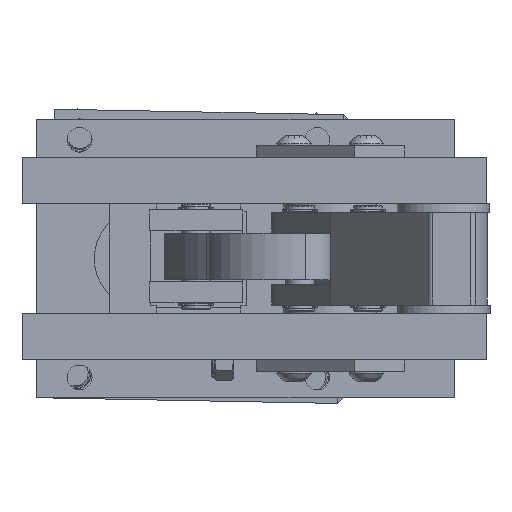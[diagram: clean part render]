
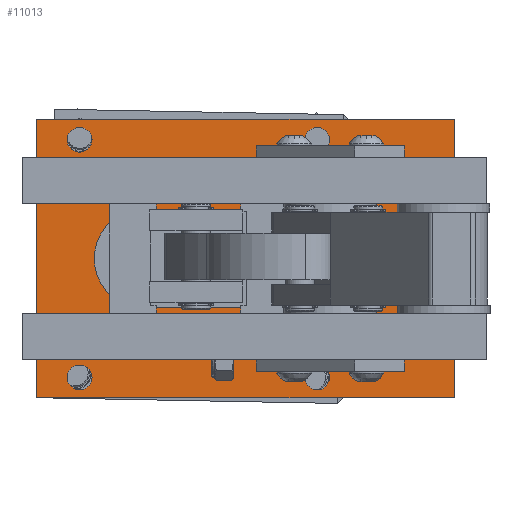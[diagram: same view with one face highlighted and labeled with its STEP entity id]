
A CAD part, left-side view. The second image highlights one B-rep face of the part: STEP entity #11013.
In plain terms, the highlighted planar face has unit normal (-1, 0, 0) as drawn and (0, 0, -1) by its records, which use the part's own axes.
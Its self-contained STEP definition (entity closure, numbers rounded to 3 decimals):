
#735=LINE($,#19102,#1239);
#739=LINE($,#19113,#1243);
#743=LINE($,#19122,#1247);
#747=LINE($,#19129,#1251);
#750=LINE($,#19135,#1254);
#752=LINE($,#19138,#1256);
#1239=VECTOR($,#14752,30.);
#1243=VECTOR($,#14764,30.);
#1247=VECTOR($,#14770,76.2);
#1251=VECTOR($,#14776,114.3);
#1254=VECTOR($,#14781,76.2);
#1256=VECTOR($,#14785,114.3);
#2402=FACE_BOUND($,#4086,.T.);
#2403=FACE_BOUND($,#4087,.T.);
#2404=FACE_BOUND($,#4088,.T.);
#2405=FACE_BOUND($,#4089,.T.);
#2406=FACE_BOUND($,#4090,.T.);
#2407=FACE_BOUND($,#4091,.T.);
#2408=FACE_BOUND($,#4092,.T.);
#2409=FACE_BOUND($,#4093,.T.);
#2410=FACE_BOUND($,#4094,.T.);
#2411=FACE_BOUND($,#4095,.T.);
#4086=EDGE_LOOP($,(#9000));
#4087=EDGE_LOOP($,(#9001));
#4088=EDGE_LOOP($,(#9002));
#4089=EDGE_LOOP($,(#9003));
#4090=EDGE_LOOP($,(#9004));
#4091=EDGE_LOOP($,(#9005));
#4092=EDGE_LOOP($,(#9006));
#4093=EDGE_LOOP($,(#9007));
#4094=EDGE_LOOP($,(#9008,#9009,#9010,#9011));
#4095=EDGE_LOOP($,(#9012,#9013,#9014,#9015));
#5017=CIRCLE($,#12197,3.391);
#5019=CIRCLE($,#12200,3.391);
#5021=CIRCLE($,#12203,3.391);
#5023=CIRCLE($,#12206,3.391);
#5028=CIRCLE($,#12214,4.25);
#5032=CIRCLE($,#12221,4.25);
#5036=CIRCLE($,#12228,4.25);
#5040=CIRCLE($,#12235,4.25);
#5041=CIRCLE($,#12237,13.487);
#5043=CIRCLE($,#12241,13.487);
#5820=VERTEX_POINT($,#19028);
#5822=VERTEX_POINT($,#19033);
#5824=VERTEX_POINT($,#19038);
#5826=VERTEX_POINT($,#19043);
#5831=VERTEX_POINT($,#19056);
#5835=VERTEX_POINT($,#19067);
#5839=VERTEX_POINT($,#19078);
#5843=VERTEX_POINT($,#19089);
#5844=VERTEX_POINT($,#19092);
#5845=VERTEX_POINT($,#19093);
#5848=VERTEX_POINT($,#19101);
#5850=VERTEX_POINT($,#19107);
#5854=VERTEX_POINT($,#19119);
#5855=VERTEX_POINT($,#19121);
#5857=VERTEX_POINT($,#19127);
#5859=VERTEX_POINT($,#19133);
#6973=EDGE_CURVE($,#5820,#5820,#5017,.T.);
#6975=EDGE_CURVE($,#5822,#5822,#5019,.T.);
#6977=EDGE_CURVE($,#5824,#5824,#5021,.T.);
#6979=EDGE_CURVE($,#5826,#5826,#5023,.T.);
#6984=EDGE_CURVE($,#5831,#5831,#5028,.T.);
#6988=EDGE_CURVE($,#5835,#5835,#5032,.T.);
#6992=EDGE_CURVE($,#5839,#5839,#5036,.T.);
#6996=EDGE_CURVE($,#5843,#5843,#5040,.T.);
#6997=EDGE_CURVE($,#5844,#5845,#5041,.T.);
#7001=EDGE_CURVE($,#5845,#5848,#735,.T.);
#7004=EDGE_CURVE($,#5848,#5850,#5043,.T.);
#7007=EDGE_CURVE($,#5850,#5844,#739,.T.);
#7011=EDGE_CURVE($,#5855,#5854,#743,.T.);
#7015=EDGE_CURVE($,#5854,#5857,#747,.T.);
#7018=EDGE_CURVE($,#5857,#5859,#750,.T.);
#7020=EDGE_CURVE($,#5859,#5855,#752,.T.);
#9000=ORIENTED_EDGE($,*,*,#6973,.T.);
#9001=ORIENTED_EDGE($,*,*,#6975,.T.);
#9002=ORIENTED_EDGE($,*,*,#6977,.T.);
#9003=ORIENTED_EDGE($,*,*,#6979,.T.);
#9004=ORIENTED_EDGE($,*,*,#6984,.T.);
#9005=ORIENTED_EDGE($,*,*,#6988,.T.);
#9006=ORIENTED_EDGE($,*,*,#6992,.T.);
#9007=ORIENTED_EDGE($,*,*,#6996,.T.);
#9008=ORIENTED_EDGE($,*,*,#7004,.T.);
#9009=ORIENTED_EDGE($,*,*,#7007,.T.);
#9010=ORIENTED_EDGE($,*,*,#6997,.T.);
#9011=ORIENTED_EDGE($,*,*,#7001,.T.);
#9012=ORIENTED_EDGE($,*,*,#7020,.T.);
#9013=ORIENTED_EDGE($,*,*,#7011,.T.);
#9014=ORIENTED_EDGE($,*,*,#7015,.T.);
#9015=ORIENTED_EDGE($,*,*,#7018,.T.);
#10424=PLANE($,#12249);
#11013=ADVANCED_FACE($,(#2402,#2403,#2404,#2405,#2406,#2407,#2408,#2409,
#2410,#2411),#10424,.F.);
#12197=AXIS2_PLACEMENT_3D($,#19029,#14664,#14665);
#12200=AXIS2_PLACEMENT_3D($,#19034,#14670,#14671);
#12203=AXIS2_PLACEMENT_3D($,#19039,#14676,#14677);
#12206=AXIS2_PLACEMENT_3D($,#19044,#14682,#14683);
#12214=AXIS2_PLACEMENT_3D($,#19057,#14698,#14699);
#12221=AXIS2_PLACEMENT_3D($,#19068,#14712,#14713);
#12228=AXIS2_PLACEMENT_3D($,#19079,#14726,#14727);
#12235=AXIS2_PLACEMENT_3D($,#19090,#14740,#14741);
#12237=AXIS2_PLACEMENT_3D($,#19094,#14744,#14745);
#12241=AXIS2_PLACEMENT_3D($,#19108,#14757,#14758);
#12249=AXIS2_PLACEMENT_3D($,#19140,#14788,#14789);
#14664=DIRECTION('center_axis',(0.,0.,1.));
#14665=DIRECTION('ref_axis',(1.,0.,0.));
#14670=DIRECTION('center_axis',(0.,0.,1.));
#14671=DIRECTION('ref_axis',(1.,0.,0.));
#14676=DIRECTION('center_axis',(0.,0.,1.));
#14677=DIRECTION('ref_axis',(1.,0.,0.));
#14682=DIRECTION('center_axis',(0.,0.,1.));
#14683=DIRECTION('ref_axis',(1.,0.,0.));
#14698=DIRECTION('center_axis',(0.,0.,1.));
#14699=DIRECTION('ref_axis',(1.,0.,0.));
#14712=DIRECTION('center_axis',(0.,0.,1.));
#14713=DIRECTION('ref_axis',(1.,0.,0.));
#14726=DIRECTION('center_axis',(0.,0.,1.));
#14727=DIRECTION('ref_axis',(1.,0.,0.));
#14740=DIRECTION('center_axis',(0.,0.,1.));
#14741=DIRECTION('ref_axis',(1.,0.,0.));
#14744=DIRECTION('center_axis',(0.,0.,1.));
#14745=DIRECTION('ref_axis',(0.,1.,0.));
#14752=DIRECTION($,(-1.,0.,0.));
#14757=DIRECTION('center_axis',(0.,0.,1.));
#14758=DIRECTION('ref_axis',(0.,-1.,0.));
#14764=DIRECTION($,(1.,0.,0.));
#14770=DIRECTION($,(0.,-1.,0.));
#14776=DIRECTION($,(-1.,0.,0.));
#14781=DIRECTION($,(0.,1.,0.));
#14785=DIRECTION($,(1.,0.,0.));
#14788=DIRECTION('center_axis',(0.,0.,1.));
#14789=DIRECTION('ref_axis',(1.,0.,0.));
#19028=CARTESIAN_POINT('',(49.702,-55.191,0.));
#19029=CARTESIAN_POINT('Origin',(53.093,-55.191,0.));
#19033=CARTESIAN_POINT('',(49.702,9.809,0.));
#19034=CARTESIAN_POINT('Origin',(53.093,9.809,0.));
#19038=CARTESIAN_POINT('',(-15.298,-55.191,0.));
#19039=CARTESIAN_POINT('Origin',(-11.907,-55.191,0.));
#19043=CARTESIAN_POINT('',(-15.298,9.809,0.));
#19044=CARTESIAN_POINT('Origin',(-11.907,9.809,0.));
#19056=CARTESIAN_POINT('',(76.343,-44.016,0.));
#19057=CARTESIAN_POINT('Origin',(80.593,-44.016,0.));
#19067=CARTESIAN_POINT('',(16.343,-44.016,0.));
#19068=CARTESIAN_POINT('Origin',(20.593,-44.016,0.));
#19078=CARTESIAN_POINT('',(76.343,-1.366,0.));
#19079=CARTESIAN_POINT('Origin',(80.593,-1.366,0.));
#19089=CARTESIAN_POINT('',(16.343,-1.366,0.));
#19090=CARTESIAN_POINT('Origin',(20.593,-1.366,0.));
#19092=CARTESIAN_POINT('',(35.593,-36.178,0.));
#19093=CARTESIAN_POINT('',(35.593,-9.203,0.));
#19094=CARTESIAN_POINT('Origin',(35.593,-22.691,0.));
#19101=CARTESIAN_POINT('',(5.593,-9.203,0.));
#19102=CARTESIAN_POINT($,(34.518,-9.203,0.));
#19107=CARTESIAN_POINT('',(5.593,-36.178,0.));
#19108=CARTESIAN_POINT('Origin',(5.593,-22.691,0.));
#19113=CARTESIAN_POINT($,(19.518,-36.178,0.));
#19119=CARTESIAN_POINT('',(90.593,-60.791,0.));
#19121=CARTESIAN_POINT('',(90.593,15.409,0.));
#19122=CARTESIAN_POINT($,(90.593,15.409,0.));
#19127=CARTESIAN_POINT('',(-23.707,-60.791,0.));
#19129=CARTESIAN_POINT($,(90.593,-60.791,0.));
#19133=CARTESIAN_POINT('',(-23.707,15.409,0.));
#19135=CARTESIAN_POINT($,(-23.707,-60.791,0.));
#19138=CARTESIAN_POINT($,(-23.707,15.409,0.));
#19140=CARTESIAN_POINT('Origin',(33.443,-22.691,0.));
